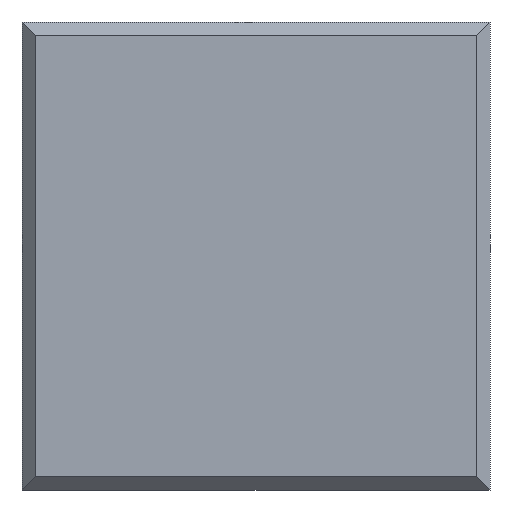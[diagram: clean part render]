
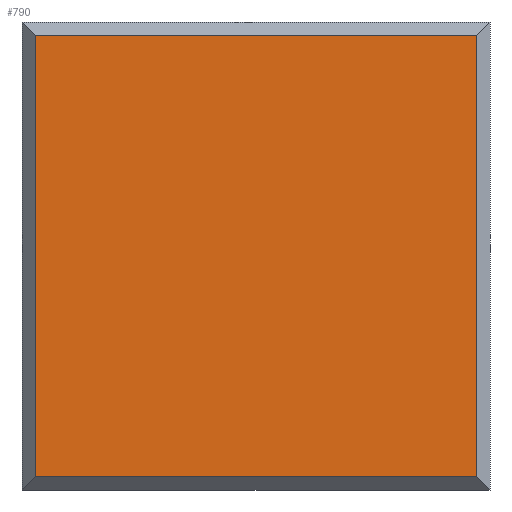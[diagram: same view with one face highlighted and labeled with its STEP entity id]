
A CAD part, front view. The second image highlights one B-rep face of the part: STEP entity #790.
In plain terms, the highlighted planar face has unit normal (0, -1, 0).
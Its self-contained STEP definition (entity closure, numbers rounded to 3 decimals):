
#21 = DIRECTION ( 'NONE',  ( -1., 0., 0. ) ) ;
#28 = VECTOR ( 'NONE', #21, 1000. ) ;
#36 = CARTESIAN_POINT ( 'NONE',  ( 16.5, -14., -16.5 ) ) ;
#94 = FACE_OUTER_BOUND ( 'NONE', #491, .T. ) ;
#152 = CARTESIAN_POINT ( 'NONE',  ( 17.5, -14., -16.5 ) ) ;
#172 = CARTESIAN_POINT ( 'NONE',  ( 16.5, -14., 16.5 ) ) ;
#194 = AXIS2_PLACEMENT_3D ( 'NONE', #621, #604, #602 ) ;
#260 = ORIENTED_EDGE ( 'NONE', *, *, #414, .T. ) ;
#325 = EDGE_CURVE ( 'NONE', #650, #540, #755, .T. ) ;
#332 = LINE ( 'NONE', #666, #845 ) ;
#414 = EDGE_CURVE ( 'NONE', #555, #480, #508, .T. ) ;
#479 = CARTESIAN_POINT ( 'NONE',  ( -16.5, -14., -16.5 ) ) ;
#480 = VERTEX_POINT ( 'NONE', #479 ) ;
#491 = EDGE_LOOP ( 'NONE', ( #761, #260, #631, #586 ) ) ;
#508 = LINE ( 'NONE', #595, #641 ) ;
#524 = EDGE_CURVE ( 'NONE', #540, #480, #802, .T. ) ;
#540 = VERTEX_POINT ( 'NONE', #36 ) ;
#544 = CARTESIAN_POINT ( 'NONE',  ( 16.5, -14., 17.5 ) ) ;
#555 = VERTEX_POINT ( 'NONE', #924 ) ;
#573 = VECTOR ( 'NONE', #734, 1000. ) ;
#586 = ORIENTED_EDGE ( 'NONE', *, *, #325, .F. ) ;
#595 = CARTESIAN_POINT ( 'NONE',  ( -16.5, -14., 16.5 ) ) ;
#602 = DIRECTION ( 'NONE',  ( -1., 0., 0. ) ) ;
#604 = DIRECTION ( 'NONE',  ( 0., -1., 0. ) ) ;
#614 = DIRECTION ( 'NONE',  ( 0., 0., -1. ) ) ;
#621 = CARTESIAN_POINT ( 'NONE',  ( 16.5, -14., 16.5 ) ) ;
#622 = DIRECTION ( 'NONE',  ( 1., 0., 0. ) ) ;
#631 = ORIENTED_EDGE ( 'NONE', *, *, #524, .F. ) ;
#641 = VECTOR ( 'NONE', #614, 1000. ) ;
#650 = VERTEX_POINT ( 'NONE', #172 ) ;
#666 = CARTESIAN_POINT ( 'NONE',  ( 17.5, -14., 16.5 ) ) ;
#695 = PLANE ( 'NONE',  #194 ) ;
#734 = DIRECTION ( 'NONE',  ( 0., 0., -1. ) ) ;
#755 = LINE ( 'NONE', #544, #573 ) ;
#761 = ORIENTED_EDGE ( 'NONE', *, *, #786, .F. ) ;
#786 = EDGE_CURVE ( 'NONE', #555, #650, #332, .T. ) ;
#790 = ADVANCED_FACE ( 'NONE', ( #94 ), #695, .T. ) ;
#802 = LINE ( 'NONE', #152, #28 ) ;
#845 = VECTOR ( 'NONE', #622, 1000. ) ;
#924 = CARTESIAN_POINT ( 'NONE',  ( -16.5, -14., 16.5 ) ) ;
